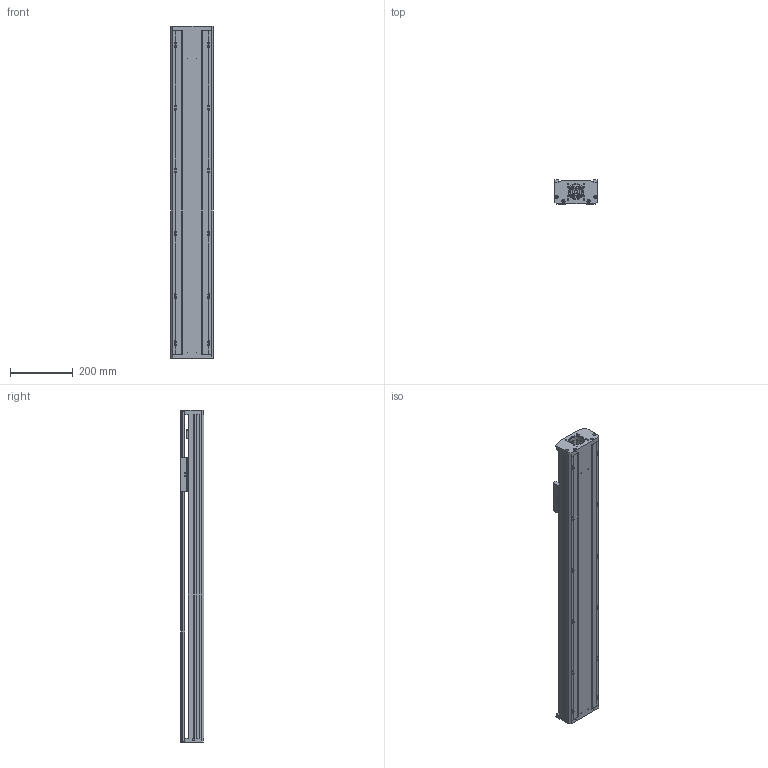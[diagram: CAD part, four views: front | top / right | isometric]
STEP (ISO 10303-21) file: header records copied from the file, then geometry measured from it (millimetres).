
FILE_DESCRIPTION(/* description */ (''),/* implementation_level */ '2;1');
FILE_NAME(/* name */ 'TKA136-F0-800_asm1.stp',/* time_stamp */ '2016-05-07T08:35:08+08:00',/* author */ (''),/* organization */ (''),/* preprocessor_version */ 'ST-DEVELOPER v15',/* originating_system */ 'SIEMENS PLM Software NX 8.5',/* authorisation */ '');
FILE_SCHEMA (('AUTOMOTIVE_DESIGN { 1 0 10303 214 3 1 1 1 }'));
Length unit declared in the file: millimetre
Products named in the file (3): 800-02; 800-01; TKA136-F0-800_asm1
Assembly tree (2 placements, depth 2):
  TKA136-F0-800_asm1
    800-01
    800-02
Bounding box: 136 x 75 x 1057 mm (x, y, z)
Volume: 3303161.4 mm3; surface area: 1223275.1 mm2
Topology: 2 solids, 12 shells, 829 faces, 2349 edges, 1534 vertices
Faces by surface type: cylinder 390, plane 385, cone 54
Full cylindrical faces by diameter (mm): 2.5 x4, 3 x2, 3.3 x12, 4 x4, 4.2 x10, 4.5 x20, 5 x16, 5.5 x26, 6.6 x16, 8 x20, 10 x9, 10.5 x12, 11 x4, 11.6 x1, 12 x9, 15 x3, 16 x5, 17 x1, 24 x5, 26 x1, 28 x1, 46 x1, 50 x1
Entity records: 27948 total; most frequent: CARTESIAN_POINT 7662, DIRECTION 4187, ORIENTED_EDGE 3944, EDGE_CURVE 1972, AXIS2_PLACEMENT_3D 1595, VERTEX_POINT 1420, EDGE_LOOP 1214, LINE 997
